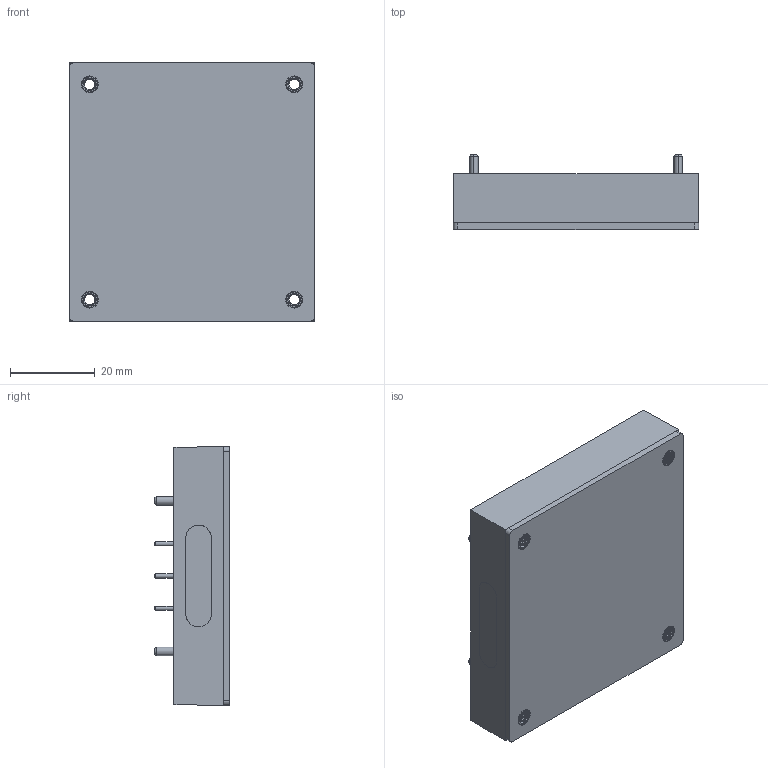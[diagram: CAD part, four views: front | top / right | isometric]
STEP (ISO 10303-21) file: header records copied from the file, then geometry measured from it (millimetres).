
FILE_DESCRIPTION (( 'STEP AP214' ), '1' );
FILE_NAME ('QSB350 Threaded insert.STEP', '2021-08-27T18:58:57', ( '' ), ( '' ), 'SwSTEP 2.0', 'SolidWorks 2020', '' );
FILE_SCHEMA (( 'AUTOMOTIVE_DESIGN' ));
Length unit declared in the file: inch
Products named in the file (8): Baseplate; QSB350 Threaded insert; QSB350 Baseplate and Inserts; Small pin; Big pin; Threaded insert; QSB350 Case; Case cover
Assembly tree (17 placements, depth 3):
  QSB350 Threaded insert
    QSB350 Baseplate and Inserts
      Baseplate
      Threaded insert  x4
    QSB350 Case
    Small pin  x5
    Big pin  x4
    Case cover
Bounding box: 57.9 x 17.7 x 61 mm (x, y, z)
Volume: 45699.8 mm3; surface area: 31096.4 mm2
Topology: 16 solids, 16 shells, 1194 faces, 3181 edges, 2096 vertices
Faces by surface type: plane 493, cylinder 360, bspline 193, cone 148
Entity records: 41920 total; most frequent: CARTESIAN_POINT 15853, ORIENTED_EDGE 3756, DIRECTION 2814, EDGE_CURVE 1878, VERTEX_POINT 1242, VECTOR 1184, LINE 1184, AXIS2_PLACEMENT_3D 815
